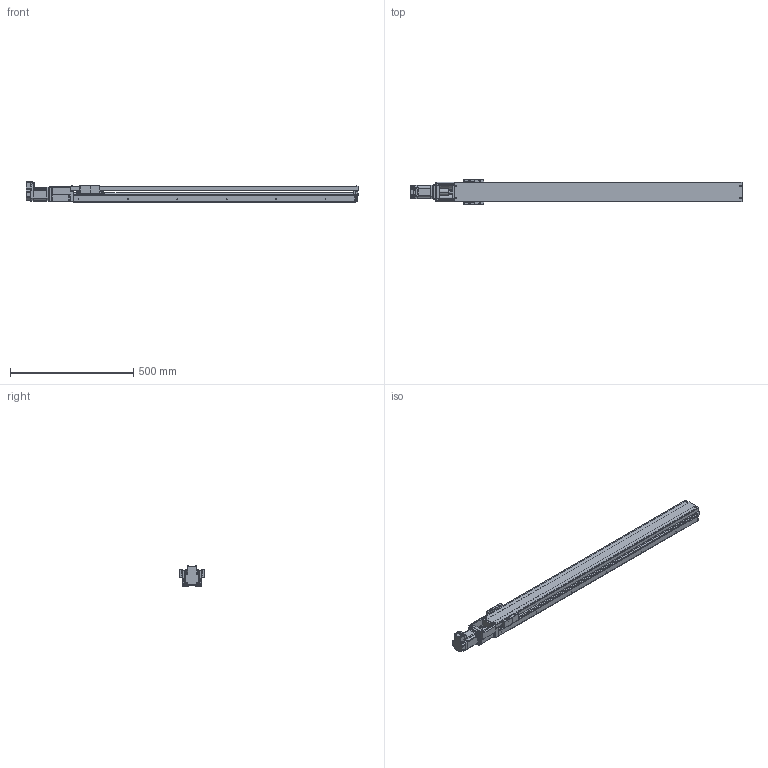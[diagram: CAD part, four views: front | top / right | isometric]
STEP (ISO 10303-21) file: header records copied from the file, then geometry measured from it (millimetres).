
FILE_DESCRIPTION(('FreeCAD Model'),'2;1');
FILE_NAME('Open CASCADE Shape Model','2023-07-31T11:10:41',('Author'),( ''),'Open CASCADE STEP processor 7.5','FreeCAD','Unknown');
FILE_SCHEMA(('AUTOMOTIVE_DESIGN { 1 0 10303 214 1 1 1 1 }'));
Length unit declared in the file: millimetre
Products named in the file (61): SCKR6A_______________; Shapes115; KR45H-SliderCS; KR45H-Slider SpacerCS; Shapes058; Shapes059; Shapes060; Shapes061; Shapes062; Shapes063; Shapes064; Shapes065; Shapes066; Shapes067; Shapes068; Shapes069; Shapes070; Shapes071; Shapes072; Shapes073; Shapes074; Shapes075; Shapes076; Shapes077; Shapes078; Shapes079; Shapes080; Shapes081; Shapes082; Shapes083; Shapes084; Shapes085; Shapes086; Shapes087; Shapes088; Shapes089; Shapes090; Shapes091; Shapes092; Shapes093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
Assembly tree (60 placements, depth 2):
  SCKR6A_______________
    Shapes115
    KR45H-SliderCS
    KR45H-Slider SpacerCS
    Shapes058
    Shapes059
    Shapes060
    Shapes061
    Shapes062
    Shapes063
    Shapes064
    Shapes065
    Shapes066
    Shapes067
    Shapes068
    Shapes069
    Shapes070
    Shapes071
    Shapes072
    Shapes073
    Shapes074
    Shapes075
    Shapes076
    Shapes077
    Shapes078
    Shapes079
    Shapes080
    Shapes081
    Shapes082
    Shapes083
    Shapes084
    Shapes085
    Shapes086
    Shapes087
    Shapes088
    Shapes089
    Shapes090
    Shapes091
    Shapes092
    Shapes093
    Shapes094
    Shapes095
    Shapes096
    Shapes097
    Shapes098
    Shapes099
    Shapes100
    Shapes101
    Shapes102
    Shapes103
    Shapes104
    Shapes105
    Shapes106
    Shapes107
    Shapes108
    Shapes109
    Shapes110
    Shapes111
    Shapes112
    Shapes113
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Bounding box: 1345.01 x 104.01 x 82.36 mm (x, y, z)
Volume: 3207926.3 mm3; surface area: 848248.4 mm2
Topology: 60 solids, 60 shells, 2489 faces, 6136 edges, 3763 vertices
Faces by surface type: cylinder 990, plane 858, torus 400, cone 130, bspline 93, sphere 18
Entity records: 173078 total; most frequent: CARTESIAN_POINT 47011, DIRECTION 24764, LINE 13390, VECTOR 13390, ORIENTED_EDGE 12136, PCURVE 12136, DEFINITIONAL_REPRESENTATION 12136, EDGE_CURVE 6068
